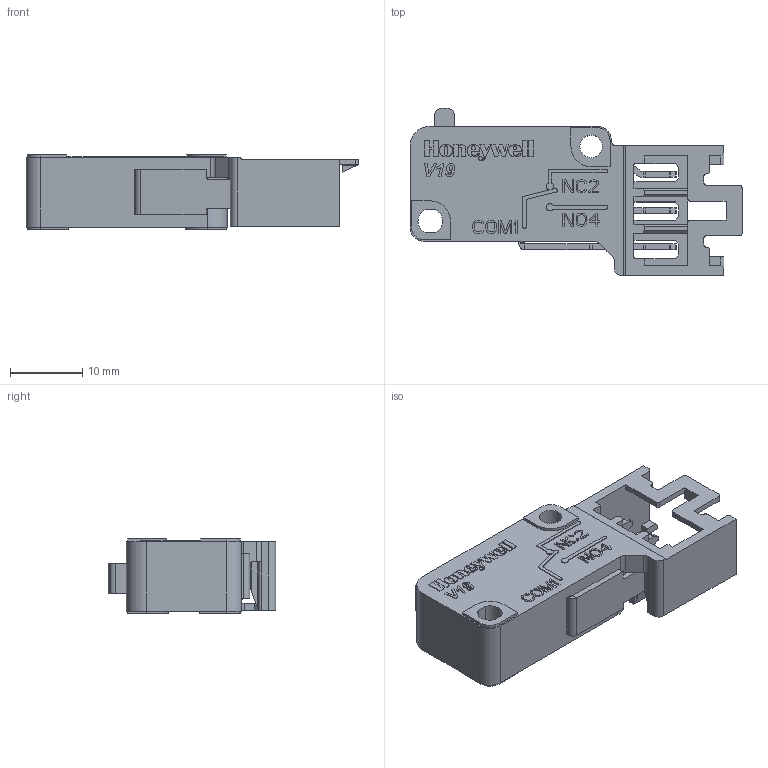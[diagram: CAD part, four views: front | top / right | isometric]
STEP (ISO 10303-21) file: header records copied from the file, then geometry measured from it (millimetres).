
FILE_DESCRIPTION((''),'2;1');
FILE_NAME('V19S05_RAST_2-5_TERMINAL','2020-06-16T13:38:42',('H260800'),(''),'CREO PARAMETRIC BY PTC INC, 2017380','CREO PARAMETRIC BY PTC INC, 2017380','');
FILE_SCHEMA(('CONFIG_CONTROL_DESIGN'));
Length unit declared in the file: millimetre
Products named in the file (1): V19S05_RAST_2-5_TERMINAL
Bounding box: 45.8 x 23.15 x 10.3 mm (x, y, z)
Volume: 5096 mm3; surface area: 3860.9 mm2
Topology: 1 solids, 1 shells, 878 faces, 2480 edges, 1639 vertices
Faces by surface type: plane 634, cylinder 132, extrusion 104, bspline 6, cone 2
Entity records: 28917 total; most frequent: CARTESIAN_POINT 6361, ORIENTED_EDGE 4960, DIRECTION 4138, EDGE_CURVE 2480, VECTOR 2076, LINE 1972, VERTEX_POINT 1639, AXIS2_PLACEMENT_3D 1031
